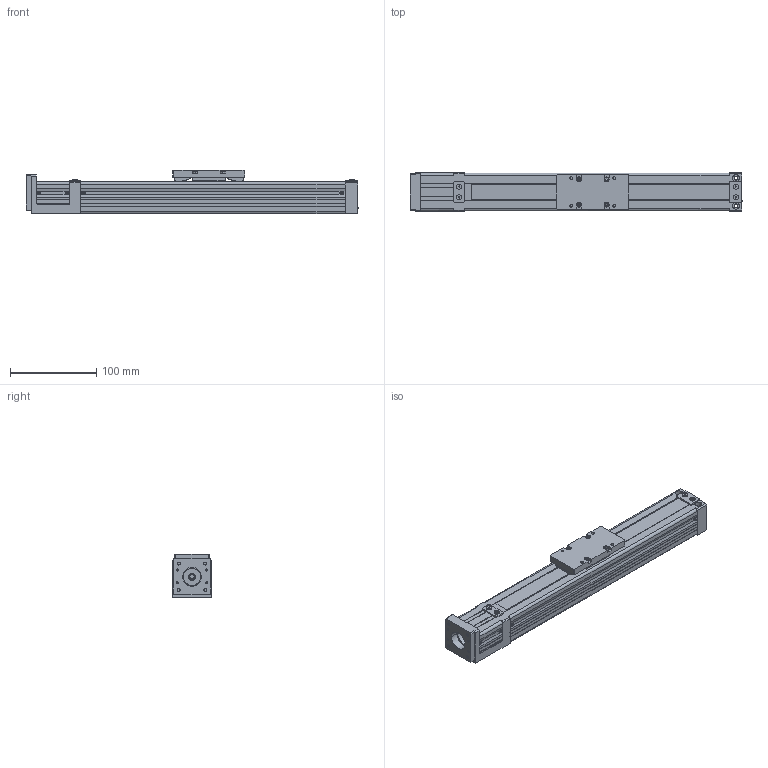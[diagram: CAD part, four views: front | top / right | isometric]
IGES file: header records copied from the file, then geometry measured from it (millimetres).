
Global section: file name: No Iges File Name specified; native system: AutoDesk Inventor R10; preprocessor: AutoDesk Inventor Iges Exporter R10; author: No Author specified; organization: No Organization specified; date: 20110617.144406; units: millimetre
Bounding box: 386 x 45 x 50 mm (x, y, z)
Surface area: 158831.3 mm2 (no closed solid volume)
Topology: 0 solids, 0 shells, 796 faces, 5258 edges, 5238 vertices
Faces by surface type: bspline 796
